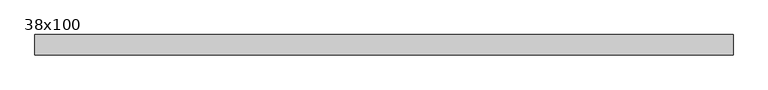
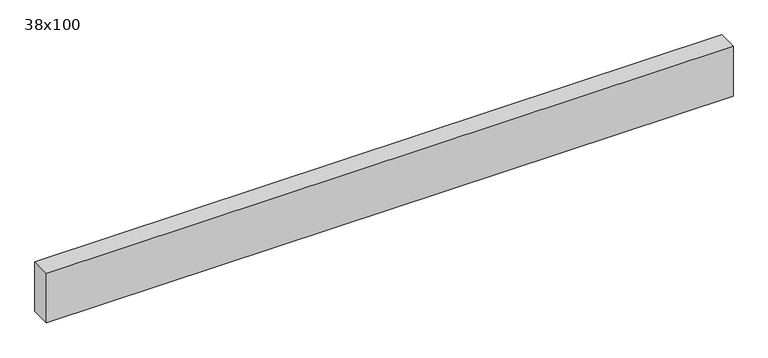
"""IFC4 building model written with IfcOpenShell, lengths in millimetres: beam geometry, Poutre - Bois de construction de dimensions courantes : 38x100."""

from ifc_helpers import new_model, si_unit, frame, origin, place, context, project, spatial, polyline, outline, extrude, source, transform, mapped, element, save


def beam_38x100_d0e13b18(model_context):
    return source(origin(), model_context, "Body", "SweptSolid", [
        extrude(outline(polyline([(703.5, 19.05), (703.5, -19.05), (-604.5, -19.05), (-604.5, 19.05), (703.5, 19.05)])), frame((0.0, 0.0, -50.0), z_axis=(0.0, 0.0, 1.0), x_axis=(1.0, 0.0, 0.0)), (0.0, 0.0, 1.0), 100.0),
    ])


if __name__ == "__main__":
    model = new_model("IFC4")
    model_context = context("Model", 3, world=origin())
    ifc_project = project(units=[si_unit("LENGTHUNIT", "METRE", prefix="MILLI")], contexts=[model_context])
    site = spatial("IfcSite", under=ifc_project)
    building = spatial("IfcBuilding", under=site)
    placement = place(None, origin())
    beam_38x100_shape = beam_38x100_d0e13b18(model_context)
    element("IfcBeam", 1, ObjectType="Poutre - Bois de construction de dimensions courantes : 38x100", at=placement, inside=building, context=model_context, shape_type="MappedRepresentation", body=[
        mapped(beam_38x100_shape, transform((0.0, 0.0, 0.0), x_axis=(1.0, 0.0, 0.0), y_axis=(0.0, 1.0, 0.0), z_axis=(0.0, 0.0, 1.0))),
    ])
    save(model, "model.ifc")
